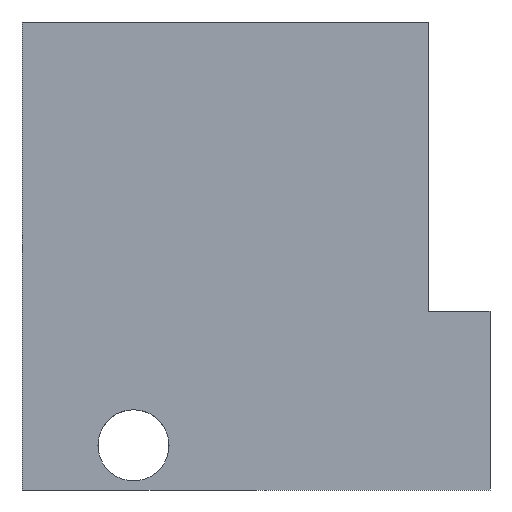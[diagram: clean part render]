
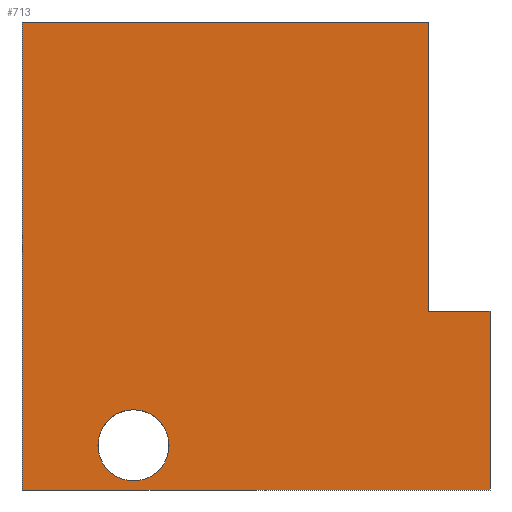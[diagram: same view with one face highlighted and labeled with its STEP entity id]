
A CAD part, left-side view. The second image highlights one B-rep face of the part: STEP entity #713.
In plain terms, the highlighted planar face has unit normal (-1, 0, 0).
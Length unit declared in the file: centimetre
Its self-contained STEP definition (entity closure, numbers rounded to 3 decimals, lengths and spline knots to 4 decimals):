
#10 = EDGE_CURVE ( 'NONE', #463, #736, #860, .T. ) ;
#19 = ORIENTED_EDGE ( 'NONE', *, *, #44, .T. ) ;
#35 = EDGE_CURVE ( 'NONE', #155, #941, #146, .T. ) ;
#38 = ORIENTED_EDGE ( 'NONE', *, *, #10, .T. ) ;
#44 = EDGE_CURVE ( 'NONE', #308, #565, #845, .T. ) ;
#51 = DIRECTION ( 'NONE',  ( 0., 0., 1. ) ) ;
#68 = CARTESIAN_POINT ( 'NONE',  ( 0., 0., 0. ) ) ;
#73 = DIRECTION ( 'NONE',  ( 0., -1., 0. ) ) ;
#86 = VERTEX_POINT ( 'NONE', #436 ) ;
#139 = CARTESIAN_POINT ( 'NONE',  ( 0., 1000., 1000. ) ) ;
#144 = CARTESIAN_POINT ( 'NONE',  ( 0., 1000., 1000. ) ) ;
#146 = LINE ( 'NONE', #715, #355 ) ;
#148 = AXIS2_PLACEMENT_3D ( 'NONE', #201, #737, #433 ) ;
#152 = DIRECTION ( 'NONE',  ( 0., 0., -1. ) ) ;
#155 = VERTEX_POINT ( 'NONE', #384 ) ;
#159 = VERTEX_POINT ( 'NONE', #742 ) ;
#173 = CARTESIAN_POINT ( 'NONE',  ( 0., 130.4179, 381.8324 ) ) ;
#179 = LINE ( 'NONE', #188, #593 ) ;
#188 = CARTESIAN_POINT ( 'NONE',  ( 0., 0., 1000. ) ) ;
#201 = CARTESIAN_POINT ( 'NONE',  ( 0., 761.8059, 95.5467 ) ) ;
#202 = DIRECTION ( 'NONE',  ( 0., -1., 0. ) ) ;
#222 = PLANE ( 'NONE',  #276 ) ;
#255 = CIRCLE ( 'NONE', #148, 75.9431 ) ;
#265 = ORIENTED_EDGE ( 'NONE', *, *, #766, .T. ) ;
#269 = CARTESIAN_POINT ( 'NONE',  ( 0., 761.8059, 19.6036 ) ) ;
#276 = AXIS2_PLACEMENT_3D ( 'NONE', #139, #434, #152 ) ;
#284 = DIRECTION ( 'NONE',  ( 0., -1., 0. ) ) ;
#295 = EDGE_LOOP ( 'NONE', ( #19, #906 ) ) ;
#306 = EDGE_CURVE ( 'NONE', #941, #736, #179, .T. ) ;
#308 = VERTEX_POINT ( 'NONE', #269 ) ;
#318 = LINE ( 'NONE', #685, #801 ) ;
#328 = EDGE_CURVE ( 'NONE', #155, #159, #559, .T. ) ;
#355 = VECTOR ( 'NONE', #202, 100. ) ;
#381 = VECTOR ( 'NONE', #284, 100. ) ;
#384 = CARTESIAN_POINT ( 'NONE',  ( 0., 130.4179, 381.8324 ) ) ;
#433 = DIRECTION ( 'NONE',  ( 0., 0., -1. ) ) ;
#434 = DIRECTION ( 'NONE',  ( 1., 0., 0. ) ) ;
#436 = CARTESIAN_POINT ( 'NONE',  ( 0., 1000., 1000. ) ) ;
#444 = CARTESIAN_POINT ( 'NONE',  ( 0., 761.8059, 95.5467 ) ) ;
#463 = VERTEX_POINT ( 'NONE', #554 ) ;
#518 = CARTESIAN_POINT ( 'NONE',  ( 0., 761.8059, 171.4899 ) ) ;
#535 = EDGE_LOOP ( 'NONE', ( #645, #711, #693, #265, #38, #825 ) ) ;
#554 = CARTESIAN_POINT ( 'NONE',  ( 0., 1000., 0. ) ) ;
#559 = LINE ( 'NONE', #173, #943 ) ;
#561 = CARTESIAN_POINT ( 'NONE',  ( 0., 0., 381.8324 ) ) ;
#565 = VERTEX_POINT ( 'NONE', #518 ) ;
#582 = FACE_OUTER_BOUND ( 'NONE', #535, .T. ) ;
#593 = VECTOR ( 'NONE', #838, 100. ) ;
#640 = EDGE_CURVE ( 'NONE', #565, #308, #255, .T. ) ;
#645 = ORIENTED_EDGE ( 'NONE', *, *, #35, .F. ) ;
#674 = VECTOR ( 'NONE', #73, 100. ) ;
#685 = CARTESIAN_POINT ( 'NONE',  ( 0., 1000., 1000. ) ) ;
#693 = ORIENTED_EDGE ( 'NONE', *, *, #757, .F. ) ;
#708 = AXIS2_PLACEMENT_3D ( 'NONE', #444, #867, #803 ) ;
#711 = ORIENTED_EDGE ( 'NONE', *, *, #328, .T. ) ;
#713 = ADVANCED_FACE ( 'NONE', ( #805, #582 ), #222, .F. ) ;
#715 = CARTESIAN_POINT ( 'NONE',  ( 0., 130.4179, 381.8324 ) ) ;
#736 = VERTEX_POINT ( 'NONE', #68 ) ;
#737 = DIRECTION ( 'NONE',  ( 1., 0., 0. ) ) ;
#742 = CARTESIAN_POINT ( 'NONE',  ( 0., 130.4179, 1000. ) ) ;
#757 = EDGE_CURVE ( 'NONE', #86, #159, #810, .T. ) ;
#763 = CARTESIAN_POINT ( 'NONE',  ( 0., 1000., 0. ) ) ;
#766 = EDGE_CURVE ( 'NONE', #86, #463, #318, .T. ) ;
#801 = VECTOR ( 'NONE', #893, 100. ) ;
#803 = DIRECTION ( 'NONE',  ( 0., 0., -1. ) ) ;
#805 = FACE_BOUND ( 'NONE', #295, .T. ) ;
#810 = LINE ( 'NONE', #144, #674 ) ;
#825 = ORIENTED_EDGE ( 'NONE', *, *, #306, .F. ) ;
#838 = DIRECTION ( 'NONE',  ( 0., 0., -1. ) ) ;
#845 = CIRCLE ( 'NONE', #708, 75.9431 ) ;
#860 = LINE ( 'NONE', #763, #381 ) ;
#867 = DIRECTION ( 'NONE',  ( 1., 0., 0. ) ) ;
#893 = DIRECTION ( 'NONE',  ( 0., 0., -1. ) ) ;
#906 = ORIENTED_EDGE ( 'NONE', *, *, #640, .T. ) ;
#941 = VERTEX_POINT ( 'NONE', #561 ) ;
#943 = VECTOR ( 'NONE', #51, 100. ) ;
